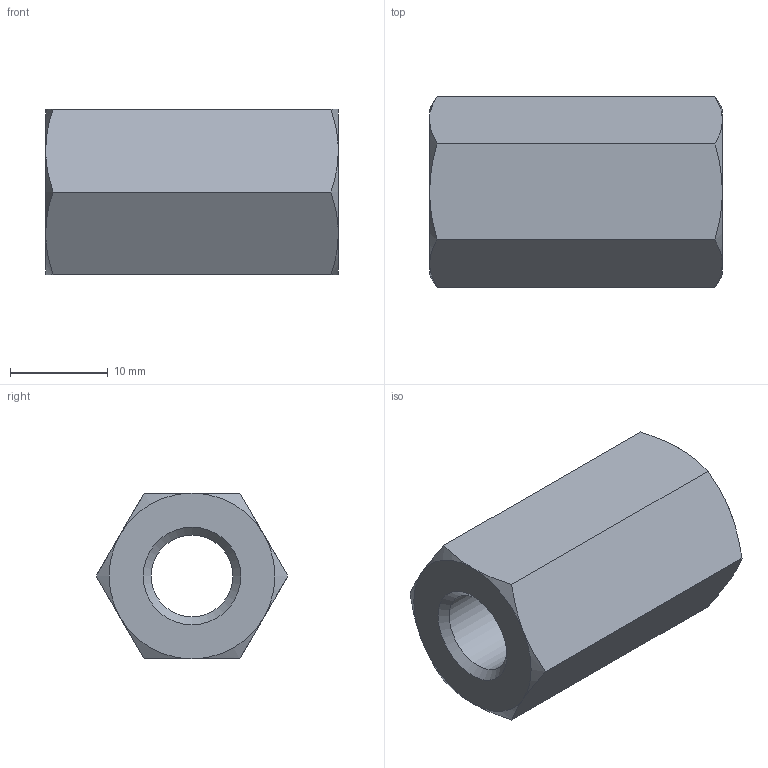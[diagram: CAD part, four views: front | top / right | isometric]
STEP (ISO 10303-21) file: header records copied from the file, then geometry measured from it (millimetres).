
FILE_DESCRIPTION( ( 'STEP AP203' ), '1' );
FILE_NAME( 'C:/Temp/Ganter_Step_05_03_2020/data/3_2/gn6220/gn6220_st/Spacer GN 6220-ST-M10-30-A.stp', '2020-03-13T05:42:35', ( 'License CC BY-ND 4.0' ), ( 'CADENAS' ), ' ', 'PARTsolutions', ' ' );
FILE_SCHEMA( ( 'CONFIG_CONTROL_DESIGN' ) );
Length unit declared in the file: millimetre
Products named in the file (1): _Spacer GN 6220-ST-M10-30-A
Bounding box: 30 x 19.63 x 17 mm (x, y, z)
Volume: 5826.3 mm3; surface area: 2899.7 mm2
Topology: 1 solids, 1 shells, 23 faces, 49 edges, 28 vertices
Faces by surface type: cone 14, plane 8, cylinder 1
Full cylindrical faces by diameter (mm): 8.376 x1
Entity records: 728 total; most frequent: CARTESIAN_POINT 234, ORIENTED_EDGE 92, DIRECTION 86, EDGE_CURVE 46, AXIS2_PLACEMENT_3D 40, EDGE_LOOP 28, VERTEX_POINT 28, FACE_OUTER_BOUND 24
